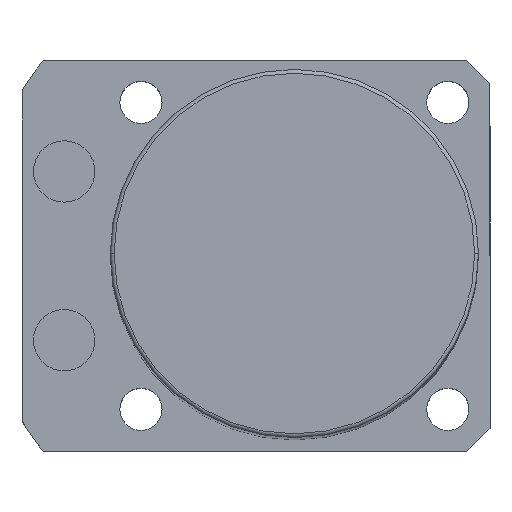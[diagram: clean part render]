
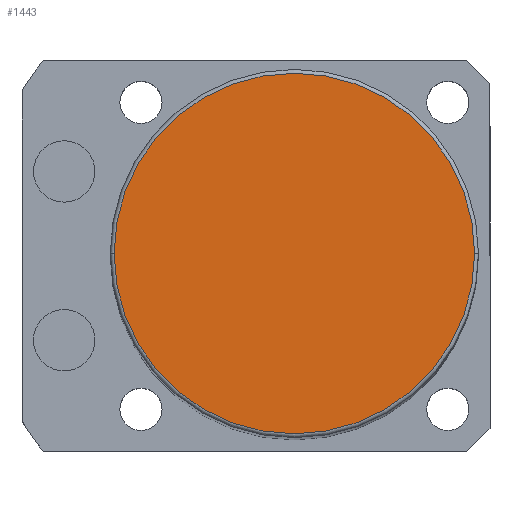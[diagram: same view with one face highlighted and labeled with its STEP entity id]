
A CAD part, top view. The second image highlights one B-rep face of the part: STEP entity #1443.
In plain terms, the highlighted planar face has unit normal (0, 0, 1).
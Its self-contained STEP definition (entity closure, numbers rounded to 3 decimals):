
#7 = DIRECTION ( 'NONE',  ( 0., 0., 1. ) ) ;
#37 = FACE_OUTER_BOUND ( 'NONE', #267, .T. ) ;
#267 = EDGE_LOOP ( 'NONE', ( #2163, #822 ) ) ;
#297 = VERTEX_POINT ( 'NONE', #1759 ) ;
#363 = DIRECTION ( 'NONE',  ( 1., 0., 0. ) ) ;
#530 = PLANE ( 'NONE',  #1193 ) ;
#531 = DIRECTION ( 'NONE',  ( 0., 0., 1. ) ) ;
#822 = ORIENTED_EDGE ( 'NONE', *, *, #1345, .T. ) ;
#872 = CARTESIAN_POINT ( 'NONE',  ( 0., 0., 186. ) ) ;
#902 = DIRECTION ( 'NONE',  ( 1., 0., 0. ) ) ;
#1193 = AXIS2_PLACEMENT_3D ( 'NONE', #2219, #7, #902 ) ;
#1235 = VERTEX_POINT ( 'NONE', #1388 ) ;
#1345 = EDGE_CURVE ( 'NONE', #297, #1235, #1404, .T. ) ;
#1388 = CARTESIAN_POINT ( 'NONE',  ( 23.5, 0., 186. ) ) ;
#1401 = CIRCLE ( 'NONE', #1583, 23.5 ) ;
#1404 = CIRCLE ( 'NONE', #2147, 23.5 ) ;
#1443 = ADVANCED_FACE ( 'NONE', ( #37 ), #530, .T. ) ;
#1583 = AXIS2_PLACEMENT_3D ( 'NONE', #872, #531, #2001 ) ;
#1759 = CARTESIAN_POINT ( 'NONE',  ( -23.5, 0., 186. ) ) ;
#1820 = CARTESIAN_POINT ( 'NONE',  ( 0., 0., 186. ) ) ;
#1880 = EDGE_CURVE ( 'NONE', #1235, #297, #1401, .T. ) ;
#2001 = DIRECTION ( 'NONE',  ( 1., 0., 0. ) ) ;
#2016 = DIRECTION ( 'NONE',  ( 0., 0., 1. ) ) ;
#2147 = AXIS2_PLACEMENT_3D ( 'NONE', #1820, #2016, #363 ) ;
#2163 = ORIENTED_EDGE ( 'NONE', *, *, #1880, .T. ) ;
#2219 = CARTESIAN_POINT ( 'NONE',  ( 0., 0., 186. ) ) ;
